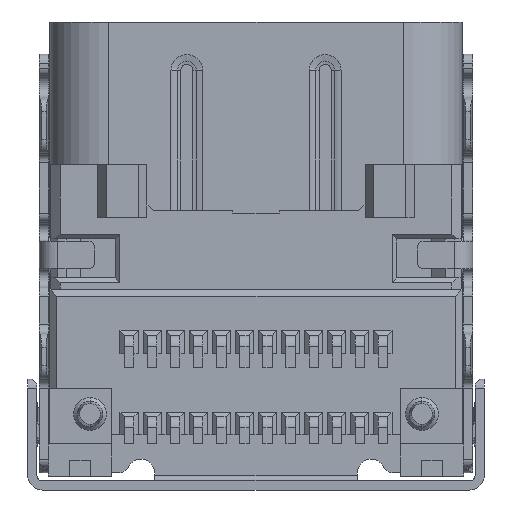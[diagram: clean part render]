
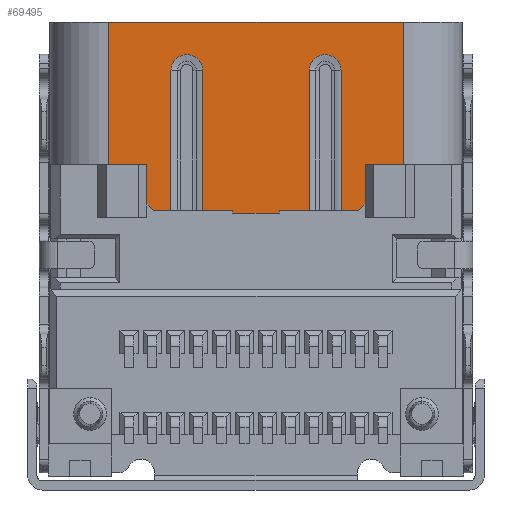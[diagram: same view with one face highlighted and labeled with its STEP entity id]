
A CAD part, front view. The second image highlights one B-rep face of the part: STEP entity #69495.
In plain terms, the highlighted planar face has unit normal (0, -1, 0).
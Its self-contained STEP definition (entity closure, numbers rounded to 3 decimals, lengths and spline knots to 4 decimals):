
#25765=DIRECTION('',(-1.,0.,0.));
#25766=VECTOR('',#25765,0.8241);
#25767=CARTESIAN_POINT('',(77.9851,2.82,-3.095));
#25768=LINE('',#25767,#25766);
#26335=DIRECTION('',(0.,0.,-1.));
#26336=VECTOR('',#26335,3.095);
#26337=CARTESIAN_POINT('',(77.9851,2.82,
0.));
#26338=LINE('',#26337,#26336);
#26429=DIRECTION('',(1.,0.,0.));
#26430=VECTOR('',#26429,6.38);
#26431=CARTESIAN_POINT('',(71.6051,2.82,
0.));
#26432=LINE('',#26431,#26430);
#32300=DIRECTION('',(0.,0.,1.));
#32301=VECTOR('',#32300,3.095);
#32302=CARTESIAN_POINT('',(71.6051,2.82,-3.095));
#32303=LINE('',#32302,#32301);
#39679=DIRECTION('',(0.,0.,-1.));
#39680=VECTOR('',#39679,0.85);
#39681=CARTESIAN_POINT('',(72.4292,2.82,-3.095));
#39682=LINE('',#39681,#39680);
#39683=DIRECTION('',(1.,0.,0.));
#39684=VECTOR('',#39683,0.8241);
#39685=CARTESIAN_POINT('',(71.6051,2.82,-3.095));
#39686=LINE('',#39685,#39684);
#39687=DIRECTION('',(0.,0.,1.));
#39688=VECTOR('',#39687,0.85);
#39689=CARTESIAN_POINT('',(77.1611,2.82,-3.945));
#39690=LINE('',#39689,#39688);
#39691=DIRECTION('',(0.707,0.,0.707));
#39692=VECTOR('',#39691,0.2121);
#39693=CARTESIAN_POINT('',(77.0111,2.82,-4.095));
#39694=LINE('',#39693,#39692);
#39695=DIRECTION('',(1.,0.,0.));
#39696=VECTOR('',#39695,0.3705);
#39697=CARTESIAN_POINT('',(76.6406,2.82,-4.095));
#39698=LINE('',#39697,#39696);
#39699=CARTESIAN_POINT('',(76.2951,2.82,
-1.05));
#39700=DIRECTION('',(0.,1.,0.));
#39701=DIRECTION('',(-1.,0.,0.));
#39702=AXIS2_PLACEMENT_3D('',#39699,#39700,#39701);
#39704=DIRECTION('',(1.,0.,0.));
#39705=VECTOR('',#39704,0.6546);
#39706=CARTESIAN_POINT('',(75.2951,2.82,-4.095));
#39707=LINE('',#39706,#39705);
#39708=DIRECTION('',(0.,0.,1.));
#39709=VECTOR('',#39708,0.05);
#39710=CARTESIAN_POINT('',(75.2951,2.82,-4.145));
#39711=LINE('',#39710,#39709);
#39712=DIRECTION('',(1.,0.,0.));
#39713=VECTOR('',#39712,1.);
#39714=CARTESIAN_POINT('',(74.2951,2.82,-4.145));
#39715=LINE('',#39714,#39713);
#39716=DIRECTION('',(0.,0.,-1.));
#39717=VECTOR('',#39716,0.05);
#39718=CARTESIAN_POINT('',(74.2951,2.82,
-4.095));
#39719=LINE('',#39718,#39717);
#39720=DIRECTION('',(1.,0.,0.));
#39721=VECTOR('',#39720,0.6546);
#39722=CARTESIAN_POINT('',(73.6406,2.82,
-4.095));
#39723=LINE('',#39722,#39721);
#39724=CARTESIAN_POINT('',(73.2951,2.82,
-1.05));
#39725=DIRECTION('',(0.,1.,0.));
#39726=DIRECTION('',(-1.,0.,0.));
#39727=AXIS2_PLACEMENT_3D('',#39724,#39725,#39726);
#39729=DIRECTION('',(1.,0.,0.));
#39730=VECTOR('',#39729,0.3705);
#39731=CARTESIAN_POINT('',(72.5792,2.82,
-4.095));
#39732=LINE('',#39731,#39730);
#39733=DIRECTION('',(0.707,0.,-0.707));
#39734=VECTOR('',#39733,0.2121);
#39735=CARTESIAN_POINT('',(72.4292,2.82,-3.945));
#39736=LINE('',#39735,#39734);
#39737=DIRECTION('',(0.,0.,1.));
#39738=VECTOR('',#39737,3.045);
#39739=CARTESIAN_POINT('',(76.6406,2.82,-4.095));
#39740=LINE('',#39739,#39738);
#39766=DIRECTION('',(0.,0.,
-1.));
#39767=VECTOR('',#39766,3.045);
#39768=CARTESIAN_POINT('',(75.9497,2.82,
-1.05));
#39769=LINE('',#39768,#39767);
#39844=DIRECTION('',(0.,0.,1.));
#39845=VECTOR('',#39844,3.0449);
#39846=CARTESIAN_POINT('',(73.6406,2.82,
-4.095));
#39847=LINE('',#39846,#39845);
#39861=DIRECTION('',(0.,0.,-1.));
#39862=VECTOR('',#39861,3.045);
#39863=CARTESIAN_POINT('',(72.9497,2.82,
-1.05));
#39864=LINE('',#39863,#39862);
#44904=CARTESIAN_POINT('',(77.1611,2.82,-3.095));
#44906=VERTEX_POINT('',#44904);
#44927=CARTESIAN_POINT('',(77.9851,2.82,-3.095));
#44928=VERTEX_POINT('',#44927);
#44929=CARTESIAN_POINT('',(72.4292,2.82,-3.095));
#44930=CARTESIAN_POINT('',(72.4292,2.82,-3.945));
#44931=VERTEX_POINT('',#44929);
#44932=VERTEX_POINT('',#44930);
#44933=CARTESIAN_POINT('',(72.5792,2.82,
-4.095));
#44934=VERTEX_POINT('',#44933);
#44935=CARTESIAN_POINT('',(72.9497,2.82,
-4.095));
#44936=VERTEX_POINT('',#44935);
#44937=CARTESIAN_POINT('',(72.9497,2.82,
-1.05));
#44938=VERTEX_POINT('',#44937);
#44939=CARTESIAN_POINT('',(73.6406,2.82,
-1.0501));
#44940=VERTEX_POINT('',#44939);
#44941=CARTESIAN_POINT('',(73.6406,2.82,
-4.095));
#44942=VERTEX_POINT('',#44941);
#44943=CARTESIAN_POINT('',(74.2951,2.82,
-4.095));
#44944=VERTEX_POINT('',#44943);
#44945=CARTESIAN_POINT('',(74.2951,2.82,-4.145));
#44946=VERTEX_POINT('',#44945);
#44947=CARTESIAN_POINT('',(75.2951,2.82,-4.145));
#44948=VERTEX_POINT('',#44947);
#44949=CARTESIAN_POINT('',(75.2951,2.82,-4.095));
#44950=VERTEX_POINT('',#44949);
#44951=CARTESIAN_POINT('',(75.9497,2.82,-4.095));
#44952=VERTEX_POINT('',#44951);
#44953=CARTESIAN_POINT('',(75.9497,2.82,
-1.05));
#44954=VERTEX_POINT('',#44953);
#44955=CARTESIAN_POINT('',(76.6406,2.82,
-1.05));
#44956=VERTEX_POINT('',#44955);
#44957=CARTESIAN_POINT('',(76.6406,2.82,-4.095));
#44958=VERTEX_POINT('',#44957);
#44959=CARTESIAN_POINT('',(77.0111,2.82,-4.095));
#44960=VERTEX_POINT('',#44959);
#44961=CARTESIAN_POINT('',(77.1611,2.82,-3.945));
#44962=VERTEX_POINT('',#44961);
#44963=CARTESIAN_POINT('',(77.9851,2.82,
0.));
#44964=VERTEX_POINT('',#44963);
#44965=CARTESIAN_POINT('',(71.6051,2.82,
0.));
#44966=VERTEX_POINT('',#44965);
#44967=CARTESIAN_POINT('',(71.6051,2.82,-3.095));
#44968=VERTEX_POINT('',#44967);
#69460=CARTESIAN_POINT('',(71.6051,2.82,
0.95));
#69461=DIRECTION('',(0.,1.,0.));
#69462=DIRECTION('',(0.,0.,-1.));
#69463=AXIS2_PLACEMENT_3D('',#69460,#69461,#69462);
#69464=PLANE('',#69463);
#69465=ORIENTED_EDGE('',*,*,#50667,.F.);
#69466=ORIENTED_EDGE('',*,*,#50682,.F.);
#69467=ORIENTED_EDGE('',*,*,#59124,.T.);
#69468=ORIENTED_EDGE('',*,*,#51436,.T.);
#69469=ORIENTED_EDGE('',*,*,#51342,.T.);
#69470=ORIENTED_EDGE('',*,*,#50505,.T.);
#69471=ORIENTED_EDGE('',*,*,#50539,.F.);
#69472=ORIENTED_EDGE('',*,*,#50554,.F.);
#69473=ORIENTED_EDGE('',*,*,#50573,.F.);
#69475=ORIENTED_EDGE('',*,*,#69474,.T.);
#69477=ORIENTED_EDGE('',*,*,#69476,.F.);
#69479=ORIENTED_EDGE('',*,*,#69478,.T.);
#69480=ORIENTED_EDGE('',*,*,#50569,.F.);
#69481=ORIENTED_EDGE('',*,*,#50588,.F.);
#69482=ORIENTED_EDGE('',*,*,#50603,.F.);
#69483=ORIENTED_EDGE('',*,*,#50618,.F.);
#69484=ORIENTED_EDGE('',*,*,#50637,.F.);
#69486=ORIENTED_EDGE('',*,*,#69485,.T.);
#69488=ORIENTED_EDGE('',*,*,#69487,.F.);
#69490=ORIENTED_EDGE('',*,*,#69489,.T.);
#69491=ORIENTED_EDGE('',*,*,#50633,.F.);
#69492=ORIENTED_EDGE('',*,*,#50652,.F.);
#69493=EDGE_LOOP('',(#69465,#69466,#69467,#69468,#69469,#69470,#69471,#69472,
#69473,#69475,#69477,#69479,#69480,#69481,#69482,#69483,#69484,#69486,#69488,
#69490,#69491,#69492));
#69494=FACE_OUTER_BOUND('',#69493,.F.);
#69495=ADVANCED_FACE('',(#69494),#69464,.F.);
#39703=CIRCLE('',#39702,0.3454);
#39728=CIRCLE('',#39727,0.3454);
#50505=EDGE_CURVE('',#44928,#44906,#25768,.T.);
#50539=EDGE_CURVE('',#44962,#44906,#39690,.T.);
#50554=EDGE_CURVE('',#44960,#44962,#39694,.T.);
#50569=EDGE_CURVE('',#44950,#44952,#39707,.T.);
#50573=EDGE_CURVE('',#44958,#44960,#39698,.T.);
#50588=EDGE_CURVE('',#44948,#44950,#39711,.T.);
#50603=EDGE_CURVE('',#44946,#44948,#39715,.T.);
#50618=EDGE_CURVE('',#44944,#44946,#39719,.T.);
#50633=EDGE_CURVE('',#44934,#44936,#39732,.T.);
#50637=EDGE_CURVE('',#44942,#44944,#39723,.T.);
#50652=EDGE_CURVE('',#44932,#44934,#39736,.T.);
#50667=EDGE_CURVE('',#44931,#44932,#39682,.T.);
#50682=EDGE_CURVE('',#44968,#44931,#39686,.T.);
#51342=EDGE_CURVE('',#44964,#44928,#26338,.T.);
#51436=EDGE_CURVE('',#44966,#44964,#26432,.T.);
#59124=EDGE_CURVE('',#44968,#44966,#32303,.T.);
#69474=EDGE_CURVE('',#44958,#44956,#39740,.T.);
#69476=EDGE_CURVE('',#44954,#44956,#39703,.T.);
#69478=EDGE_CURVE('',#44954,#44952,#39769,.T.);
#69485=EDGE_CURVE('',#44942,#44940,#39847,.T.);
#69487=EDGE_CURVE('',#44938,#44940,#39728,.T.);
#69489=EDGE_CURVE('',#44938,#44936,#39864,.T.);
